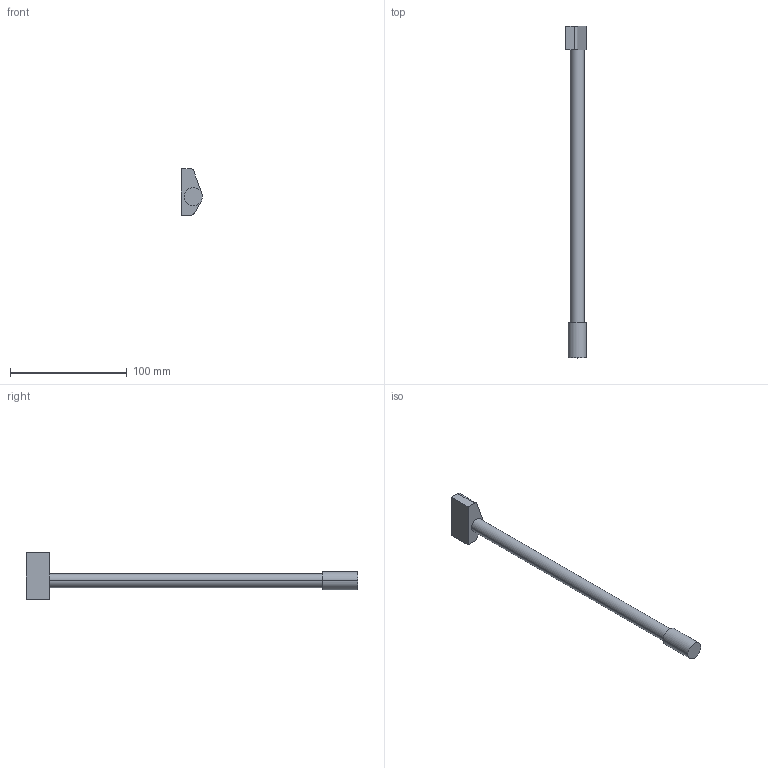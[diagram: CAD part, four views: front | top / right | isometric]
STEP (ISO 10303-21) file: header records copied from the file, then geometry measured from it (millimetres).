
FILE_DESCRIPTION (( 'STEP AP214' ), '1' );
FILE_NAME ('DWD-XP-Reling Innenschub_NL-300_rechts.step', '2010-09-27T06:30:28', ( 'grass' ), ( '' ), 'SwSTEP 2.0', 'SolidWorks 2010', '' );
FILE_SCHEMA (( 'AUTOMOTIVE_DESIGN' ));
Length unit declared in the file: millimetre
Products named in the file (1): DWD-XP-Reling Innenschub_NL-300_rechts
Bounding box: 18 x 284.3 x 40.1 mm (x, y, z)
Volume: 43704.4 mm3; surface area: 13652.1 mm2
Topology: 1 solids, 1 shells, 17 faces, 39 edges, 26 vertices
Faces by surface type: plane 9, cylinder 8
Entity records: 523 total; most frequent: DIRECTION 91, CARTESIAN_POINT 83, ORIENTED_EDGE 78, EDGE_CURVE 39, AXIS2_PLACEMENT_3D 34, VERTEX_POINT 26, LINE 23, VECTOR 23
